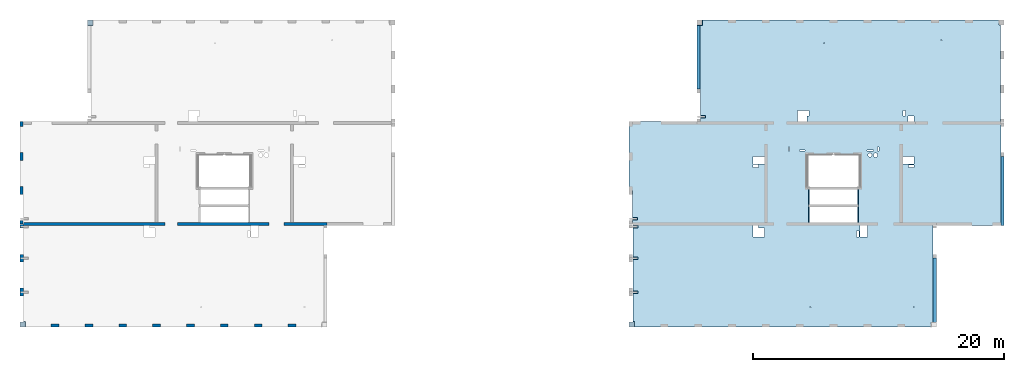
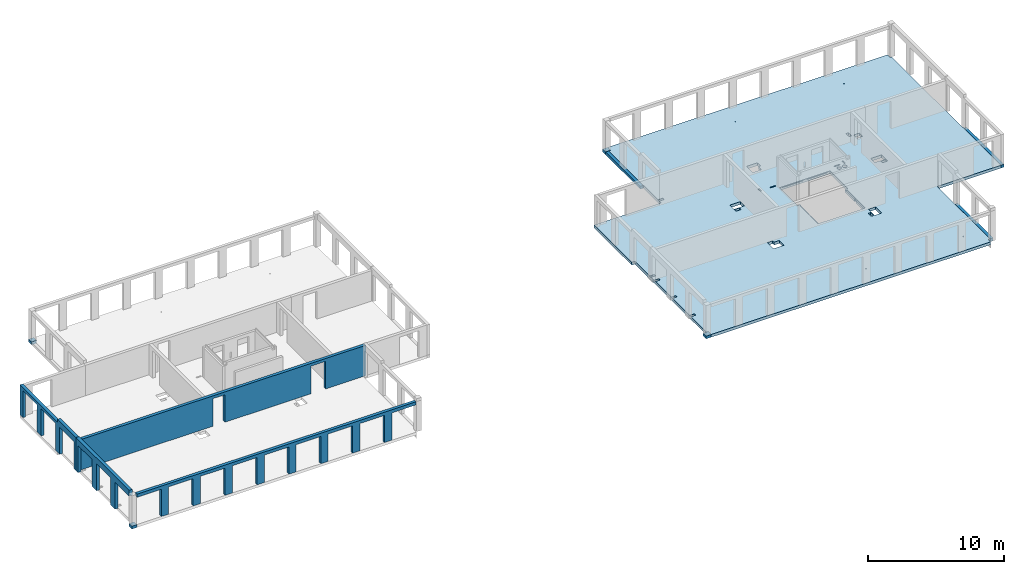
# One storey, part 2 of 11: 8 slabs, 4 walls, 53 openings.
"""IFC2X3 building model written with IfcOpenShell, lengths in millimetres."""

from ifc_helpers import new_model, entity, si_unit, converted_unit, derived_unit, direction, frame, frame_2d, origin, origin_2d_with_axis, place, context, subcontext, project, spatial, polyline, rectangle, circle, outline, extrude, material, layer, layer_set, layer_usage, type_object, element, save


model = new_model("IFC2X3")

# Units and contexts
model_context = context("Model", 3, precision=0.01, world=origin(), true_north=direction((6.12303176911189e-17, 1.0)))
body_context = subcontext(model_context, "Body", "Model", "MODEL_VIEW")
ifc_project = project(units=[si_unit("LENGTHUNIT", "METRE", prefix="MILLI"), si_unit("AREAUNIT", "SQUARE_METRE"), si_unit("VOLUMEUNIT", "CUBIC_METRE"), converted_unit("PLANEANGLEUNIT", "DEGREE", entity("IfcRatioMeasure", 0.0174532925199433), si_unit("PLANEANGLEUNIT", "RADIAN"), dimensions=[0, 0, 0, 0, 0, 0, 0]), si_unit("MASSUNIT", "GRAM", prefix="KILO"), derived_unit("MASSDENSITYUNIT", [(si_unit("MASSUNIT", "GRAM", prefix="KILO"), 1), (si_unit("LENGTHUNIT", "METRE"), -3)]), si_unit("TIMEUNIT", "SECOND"), si_unit("FREQUENCYUNIT", "HERTZ"), si_unit("THERMODYNAMICTEMPERATUREUNIT", "DEGREE_CELSIUS"), derived_unit("THERMALTRANSMITTANCEUNIT", [(si_unit("MASSUNIT", "GRAM", prefix="KILO"), 1), (si_unit("THERMODYNAMICTEMPERATUREUNIT", "KELVIN"), -1), (si_unit("TIMEUNIT", "SECOND"), -3)]), derived_unit("VOLUMETRICFLOWRATEUNIT", [(si_unit("LENGTHUNIT", "METRE"), 3), (si_unit("TIMEUNIT", "SECOND"), -1)]), si_unit("ELECTRICCURRENTUNIT", "AMPERE"), si_unit("ELECTRICVOLTAGEUNIT", "VOLT"), si_unit("POWERUNIT", "WATT"), si_unit("FORCEUNIT", "NEWTON", prefix="KILO"), si_unit("ILLUMINANCEUNIT", "LUX"), si_unit("LUMINOUSFLUXUNIT", "LUMEN"), si_unit("LUMINOUSINTENSITYUNIT", "CANDELA"), derived_unit("USERDEFINED", [(si_unit("MASSUNIT", "GRAM", prefix="KILO"), -1), (si_unit("LENGTHUNIT", "METRE"), -2), (si_unit("TIMEUNIT", "SECOND"), 3), (si_unit("LUMINOUSFLUXUNIT", "LUMEN"), 1)]), derived_unit("LINEARVELOCITYUNIT", [(si_unit("LENGTHUNIT", "METRE"), 1), (si_unit("TIMEUNIT", "SECOND"), -1)]), si_unit("PRESSUREUNIT", "PASCAL"), derived_unit("USERDEFINED", [(si_unit("LENGTHUNIT", "METRE"), -2), (si_unit("MASSUNIT", "GRAM", prefix="KILO"), 1), (si_unit("TIMEUNIT", "SECOND"), -2)])], contexts=[model_context])

# Site, building, storey
site_placement = place(None, origin())
site = spatial("IfcSite", under=ifc_project, at=site_placement, Name="Default", CompositionType="ELEMENT")
building_placement = place(site_placement, origin())
building = spatial("IfcBuilding", under=site, at=building_placement, Name="niet gebruiken", CompositionType="ELEMENT")
storey_placement = place(building_placement, frame((0.0, 0.0, 54180.0)))
storey = spatial("IfcBuildingStorey", under=building, at=storey_placement, Name="18 achttiende verdieping", CompositionType="ELEMENT", Elevation=54180.0)

# Slab, openings
ifc_material_1 = material(Name="NLRS_f2_beton ihwg")
ifc_layer_1 = layer(ifc_material_1, 250.0)
ifc_layer_set_1 = layer_set([ifc_layer_1], Name="Floor:NLRS_23.21_FL_beton ihwg d=250_gen")
ifc_layer_usage_1 = layer_usage(ifc_layer_set_1, "AXIS3", "POSITIVE", 0.0)
slab_1_placement = place(storey_placement, frame((75500.0, 28756.0, -340.0)))
slab_1 = element("IfcSlab", 1, at=slab_1_placement, inside=storey, material=ifc_layer_usage_1, Name="Floor:NLRS_23.21_FL_beton ihwg d=250_gen", ObjectType="Floor:NLRS_23.21_FL_beton ihwg d=250_gen", PredefinedType="FLOOR", context=body_context, shape_type="SweptSolid", body=[
    extrude(outline(polyline([(8995.0, 12250.0), (-14665.0, 12250.0), (-14665.0, 11840.0), (-14805.0, 11840.0), (-14805.0, 4060.0), (-14825.0, 4060.0), (-14825.0, -4150.0), (-9425.0, -4150.0), (-9425.0, -11890.0), (-9265.0, -11890.0), (-9265.0, -12250.0), (14395.0, -12250.0), (14395.0, -11820.0), (14535.0, -11820.0), (14535.0, -4040.0), (14555.0, -4040.0), (14555.0, -1350.0), (14825.0, -1350.0), (14825.0, 4150.0), (9155.0, 4150.0), (9155.0, 6750.0), (9425.0, 6750.0), (9425.0, 11820.0), (8995.0, 11820.0), (8995.0, 12250.0)])), frame((14825.0, 12250.0, 250.0), z_axis=(0.0, 0.0, -1.0), x_axis=(-1.0, 0.0, 0.0)), (0.0, 0.0, 1.0), 250.000000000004),
])
opening_1_placement = place(storey_placement, frame((75500.0, 28756.0, -340.0)))
element("IfcOpeningElement", 2, at=opening_1_placement, cuts=slab_1, ObjectType="Opening", context=body_context, shape_type="SweptSolid", body=[
    extrude(circle(Radius=37.5, at=frame_2d((-7875.0, -10650.0), x_axis=(1.0, 0.0))), frame((14825.0, 12250.0, 250.0), z_axis=(0.0, 0.0, -1.0), x_axis=(-1.0, 0.0, 0.0)), (0.0, 0.0, 1.0), 250.000000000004),
])
opening_2_placement = place(storey_placement, frame((75500.0, 28756.0, -340.0)))
element("IfcOpeningElement", 3, at=opening_2_placement, cuts=slab_1, ObjectType="Opening", context=body_context, shape_type="SweptSolid", body=[
    extrude(circle(Radius=37.5, at=frame_2d((-10075.0, 10650.0), x_axis=(1.0, 0.0))), frame((14825.0, 12250.0, 250.0), z_axis=(0.0, 0.0, -1.0), x_axis=(-1.0, 0.0, 0.0)), (0.0, 0.0, 1.0), 250.000000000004),
])
opening_3_placement = place(storey_placement, frame((75500.0, 28756.0, -340.0)))
element("IfcOpeningElement", 4, at=opening_3_placement, cuts=slab_1, ObjectType="Opening", context=body_context, shape_type="SweptSolid", body=[
    extrude(circle(Radius=37.5, at=frame_2d((-725.0, 10400.0), x_axis=(1.0, 0.0))), frame((14825.0, 12250.0, 250.0), z_axis=(0.0, 0.0, -1.0), x_axis=(-1.0, 0.0, 0.0)), (0.0, 0.0, 1.0), 250.000000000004),
])
opening_4_placement = place(storey_placement, frame((75500.0, 28756.0, -340.0)))
element("IfcOpeningElement", 5, at=opening_4_placement, cuts=slab_1, ObjectType="Opening", context=body_context, shape_type="SweptSolid", body=[
    extrude(circle(Radius=37.5, at=frame_2d((375.0, -10650.0), x_axis=(1.0, 0.0))), frame((14825.0, 12250.0, 250.0), z_axis=(0.0, 0.0, -1.0), x_axis=(-1.0, 0.0, 0.0)), (0.0, 0.0, 1.0), 250.000000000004),
])
opening_5_placement = place(slab_1_placement, origin())
element("IfcOpeningElement", 6, at=opening_5_placement, cuts=slab_1, ObjectType="Opening", context=body_context, shape_type="SweptSolid", body=[
    extrude(rectangle(XDim=109.999999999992, YDim=1220.0, at=origin_2d_with_axis()), frame((14344.9999671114, 10380.0, 210.0)), (0.0, 0.0, 1.0), 39.9999999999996),
])
opening_6_placement = place(slab_1_placement, origin())
element("IfcOpeningElement", 7, at=opening_6_placement, cuts=slab_1, ObjectType="Opening", context=body_context, shape_type="SweptSolid", body=[
    extrude(rectangle(XDim=109.999999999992, YDim=1220.0, at=origin_2d_with_axis()), frame((18254.9997832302, 10380.0, 210.0)), (0.0, 0.0, 1.0), 39.9999999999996),
])
opening_7_placement = place(slab_1_placement, origin())
element("IfcOpeningElement", 8, at=opening_7_placement, cuts=slab_1, ObjectType="Opening", context=body_context, shape_type="SweptSolid", body=[
    extrude(rectangle(XDim=109.999999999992, YDim=1220.0, at=origin_2d_with_axis()), frame((18255.0, 8960.0, 210.0)), (0.0, 0.0, 1.0), 39.9999999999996),
])
opening_8_placement = place(slab_1_placement, origin())
element("IfcOpeningElement", 9, at=opening_8_placement, cuts=slab_1, ObjectType="Opening", context=body_context, shape_type="SweptSolid", body=[
    extrude(rectangle(XDim=109.999999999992, YDim=1220.0, at=origin_2d_with_axis()), frame((14344.9997832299, 8960.0, 210.0)), (0.0, 0.0, 1.0), 39.9999999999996),
])
opening_9_placement = place(slab_1_placement, origin())
element("IfcOpeningElement", 10, at=opening_9_placement, cuts=slab_1, ObjectType="Opening", context=body_context, shape_type="SweptSolid", body=[
    extrude(rectangle(XDim=399.999999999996, YDim=199.999999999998, at=origin_2d_with_axis()), frame((5870.0, 16765.0, 220.0)), (0.0, 0.0, 1.0), 30.0000000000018),
])
opening_10_placement = place(slab_1_placement, origin())
element("IfcOpeningElement", 11, at=opening_10_placement, cuts=slab_1, ObjectType="Opening", context=body_context, shape_type="SweptSolid", body=[
    extrude(rectangle(XDim=400.000000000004, YDim=200.000000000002, at=origin_2d_with_axis()), frame((470.0, 8630.0, 220.0)), (0.0, 0.0, 1.0), 30.0000000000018),
])
opening_11_placement = place(slab_1_placement, origin())
element("IfcOpeningElement", 12, at=opening_11_placement, cuts=slab_1, ObjectType="Opening", context=body_context, shape_type="SweptSolid", body=[
    extrude(rectangle(XDim=200.000000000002, YDim=400.000000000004, at=origin_2d_with_axis()), frame((490.0, 8000.0, 220.0), z_axis=(0.0, 0.0, 1.0), x_axis=(0.0, -1.0, 0.0)), (0.0, 0.0, 1.0), 30.0000000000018),
])
opening_12_placement = place(slab_1_placement, origin())
element("IfcOpeningElement", 13, at=opening_12_placement, cuts=slab_1, ObjectType="Opening", context=body_context, shape_type="SweptSolid", body=[
    extrude(rectangle(XDim=200.000000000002, YDim=400.000000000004, at=origin_2d_with_axis()), frame((490.0, 5500.0, 220.0), z_axis=(0.0, 0.0, 1.0), x_axis=(0.0, -1.0, 0.0)), (0.0, 0.0, 1.0), 30.0000000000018),
])
opening_13_placement = place(slab_1_placement, origin())
element("IfcOpeningElement", 14, at=opening_13_placement, cuts=slab_1, ObjectType="Opening", context=body_context, shape_type="SweptSolid", body=[
    extrude(rectangle(XDim=200.000000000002, YDim=400.000000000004, at=origin_2d_with_axis()), frame((490.0, 2800.0, 220.0), z_axis=(0.0, 0.0, 1.0), x_axis=(0.0, -1.0, 0.0)), (0.0, 0.0, 1.0), 30.0000000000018),
])
opening_14_placement = place(slab_1_placement, origin())
element("IfcOpeningElement", 15, at=opening_14_placement, cuts=slab_1, ObjectType="Opening", context=body_context, shape_type="SweptSolid", body=[
    extrude(rectangle(XDim=900.000000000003, YDim=700.000000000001, at=origin_2d_with_axis()), frame((10325.0, 7550.0, 0.0), z_axis=(0.0, 0.0, 1.0), x_axis=(-1.0, 0.0, 0.0)), (0.0, 0.0, 1.0), 250.000000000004),
])
opening_15_placement = place(slab_1_placement, origin())
element("IfcOpeningElement", 16, at=opening_15_placement, cuts=slab_1, ObjectType="Opening", context=body_context, shape_type="SweptSolid", body=[
    extrude(rectangle(XDim=200.000000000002, YDim=450.000000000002, at=origin_2d_with_axis()), frame((10100.0, 8000.0, 0.0), z_axis=(0.0, 0.0, 1.0), x_axis=(0.0, -1.0, 0.0)), (0.0, 0.0, 1.0), 250.000000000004),
])
opening_16_placement = place(slab_1_placement, origin())
element("IfcOpeningElement", 17, at=opening_16_placement, cuts=slab_1, ObjectType="Opening", context=body_context, shape_type="SweptSolid", body=[
    extrude(rectangle(XDim=900.000000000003, YDim=730.000000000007, at=origin_2d_with_axis()), frame((13800.0, 16850.0, 0.0), z_axis=(0.0, 0.0, 1.0), x_axis=(0.0, 1.0, 0.0)), (0.0, 0.0, 1.0), 250.000000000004),
])
opening_17_placement = place(slab_1_placement, origin())
element("IfcOpeningElement", 18, at=opening_17_placement, cuts=slab_1, ObjectType="Opening", context=body_context, shape_type="SweptSolid", body=[
    extrude(rectangle(XDim=169.999999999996, YDim=450.000000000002, at=origin_2d_with_axis()), frame((14250.0, 17075.0, 0.0), z_axis=(0.0, 0.0, 1.0), x_axis=(-1.0, 0.0, 0.0)), (0.0, 0.0, 1.0), 250.000000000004),
])
opening_18_placement = place(slab_1_placement, origin())
element("IfcOpeningElement", 19, at=opening_18_placement, cuts=slab_1, ObjectType="Opening", context=body_context, shape_type="SweptSolid", body=[
    extrude(rectangle(XDim=900.000000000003, YDim=600.000000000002, at=origin_2d_with_axis()), frame((10325.0, 13330.0, 0.0), z_axis=(0.0, 0.0, 1.0), x_axis=(-1.0, 0.0, 0.0)), (0.0, 0.0, 1.0), 250.000000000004),
])
opening_19_placement = place(slab_1_placement, origin())
element("IfcOpeningElement", 20, at=opening_19_placement, cuts=slab_1, ObjectType="Opening", context=body_context, shape_type="SweptSolid", body=[
    extrude(rectangle(XDim=450.000000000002, YDim=500.000000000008, at=origin_2d_with_axis()), frame((22475.0, 16625.0, 0.0), z_axis=(0.0, 0.0, 1.0), x_axis=(0.0, 1.0, 0.0)), (0.0, 0.0, 1.0), 250.000000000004),
])
opening_20_placement = place(slab_1_placement, origin())
element("IfcOpeningElement", 21, at=opening_20_placement, cuts=slab_1, ObjectType="Opening", context=body_context, shape_type="SweptSolid", body=[
    extrude(rectangle(XDim=899.999999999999, YDim=600.000000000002, at=origin_2d_with_axis()), frame((18729.9818996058, 7650.0, 0.0), z_axis=(0.0, 0.0, 1.0), x_axis=(0.0, 1.0, 0.0)), (0.0, 0.0, 1.0), 250.000000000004),
])
opening_21_placement = place(slab_1_placement, origin())
element("IfcOpeningElement", 22, at=opening_21_placement, cuts=slab_1, ObjectType="Opening", context=body_context, shape_type="SweptSolid", body=[
    extrude(rectangle(XDim=900.000000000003, YDim=600.000000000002, at=origin_2d_with_axis()), frame((22275.0, 13330.0, 0.0), z_axis=(0.0, 0.0, 1.0), x_axis=(-1.0, 0.0, 0.0)), (0.0, 0.0, 1.0), 250.000000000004),
])
opening_22_placement = place(slab_1_placement, origin())
element("IfcOpeningElement", 23, at=opening_22_placement, cuts=slab_1, ObjectType="Opening", context=body_context, shape_type="SweptSolid", body=[
    extrude(rectangle(XDim=1760.00000000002, YDim=23.0000000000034, at=origin_2d_with_axis()), frame((15244.9998491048, 13751.4999999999, 180.0)), (0.0, 0.0, 1.0), 40.0000000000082),
])
opening_23_placement = place(slab_1_placement, origin())
element("IfcOpeningElement", 24, at=opening_23_placement, cuts=slab_1, ObjectType="Opening", context=body_context, shape_type="SweptSolid", body=[
    extrude(rectangle(XDim=1760.0, YDim=23.0000000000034, at=origin_2d_with_axis()), frame((17354.999849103, 13751.4999999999, 180.0)), (0.0, 0.0, 1.0), 40.0000000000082),
])
opening_24_placement = place(slab_1_placement, origin())
element("IfcOpeningElement", 25, at=opening_24_placement, cuts=slab_1, ObjectType="Opening", context=body_context, shape_type="SweptSolid", body=[
    extrude(rectangle(XDim=100.000000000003, YDim=489.999999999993, at=origin_2d_with_axis()), frame((19225.0, 14090.0, 0.0), z_axis=(0.0, 0.0, 1.0), x_axis=(0.0, -1.0, 0.0)), (0.0, 0.0, 1.0), 250.000000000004),
])
opening_25_placement = place(slab_1_placement, origin())
element("IfcOpeningElement", 26, at=opening_25_placement, cuts=slab_1, ObjectType="Opening", context=body_context, shape_type="SweptSolid", body=[
    extrude(rectangle(XDim=99.9999999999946, YDim=340.000000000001, at=origin_2d_with_axis()), frame((19865.0, 14210.0, 0.0), z_axis=(0.0, 0.0, 1.0), x_axis=(-1.0, 0.0, 0.0)), (0.0, 0.0, 1.0), 250.000000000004),
])
opening_26_placement = place(slab_1_placement, origin())
element("IfcOpeningElement", 27, at=opening_26_placement, cuts=slab_1, ObjectType="Opening", context=body_context, shape_type="SweptSolid", body=[
    extrude(rectangle(XDim=99.9999999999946, YDim=340.000000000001, at=origin_2d_with_axis()), frame((12755.0, 14210.0, 0.0), z_axis=(0.0, 0.0, 1.0), x_axis=(-1.0, 0.0, 0.0)), (0.0, 0.0, 1.0), 250.000000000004),
])
opening_27_placement = place(slab_1_placement, origin())
element("IfcOpeningElement", 28, at=opening_27_placement, cuts=slab_1, ObjectType="Opening", context=body_context, shape_type="SweptSolid", body=[
    extrude(rectangle(XDim=100.000000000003, YDim=440.000000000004, at=origin_2d_with_axis()), frame((13805.0, 14090.0, 0.0), z_axis=(0.0, 0.0, 1.0), x_axis=(0.0, -1.0, 0.0)), (0.0, 0.0, 1.0), 250.000000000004),
])
opening_28_placement = place(slab_1_placement, origin())
element("IfcOpeningElement", 29, at=opening_28_placement, cuts=slab_1, ObjectType="Opening", context=body_context, shape_type="SweptSolid", body=[
    extrude(rectangle(XDim=230.0, YDim=450.000000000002, at=origin_2d_with_axis()), frame((10100.0000865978, 12845.0002270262, 0.0), z_axis=(0.0, 0.0, 1.0), x_axis=(0.0, -1.0, 0.0)), (0.0, 0.0, 1.0), 250.000000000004),
])
opening_29_placement = place(slab_1_placement, origin())
element("IfcOpeningElement", 30, at=opening_29_placement, cuts=slab_1, ObjectType="Opening", context=body_context, shape_type="SweptSolid", body=[
    extrude(rectangle(XDim=220.000000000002, YDim=450.000000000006, at=origin_2d_with_axis()), frame((18240.0, 7425.0, 0.0)), (0.0, 0.0, 1.0), 250.000000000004),
])
opening_30_placement = place(slab_1_placement, origin())
element("IfcOpeningElement", 31, at=opening_30_placement, cuts=slab_1, ObjectType="Opening", context=body_context, shape_type="SweptSolid", body=[
    extrude(rectangle(XDim=220.000000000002, YDim=450.000000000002, at=origin_2d_with_axis()), frame((22500.0, 12840.0, 0.0), z_axis=(0.0, 0.0, 1.0), x_axis=(0.0, -1.0, 0.0)), (0.0, 0.0, 1.0), 250.000000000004),
])
opening_31_placement = place(slab_1_placement, origin())
element("IfcOpeningElement", 32, at=opening_31_placement, cuts=slab_1, ObjectType="Opening", context=body_context, shape_type="SweptSolid", body=[
    extrude(rectangle(XDim=220.000000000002, YDim=450.000000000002, at=origin_2d_with_axis()), frame((21935.0, 17075.0, 0.0), z_axis=(0.0, 0.0, 1.0), x_axis=(-1.0, 0.0, 0.0)), (0.0, 0.0, 1.0), 250.000000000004),
])
opening_32_placement = place(slab_1_placement, origin())
element("IfcOpeningElement", 33, at=opening_32_placement, cuts=slab_1, ObjectType="Opening", context=body_context, shape_type="SweptSolid", body=[
    extrude(circle(Radius=157.5, at=origin_2d_with_axis()), frame((19200.0, 13720.0, 0.0)), (0.0, 0.0, 1.0), 250.000000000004),
])
opening_33_placement = place(slab_1_placement, origin())
element("IfcOpeningElement", 34, at=opening_33_placement, cuts=slab_1, ObjectType="Opening", context=body_context, shape_type="SweptSolid", body=[
    extrude(circle(Radius=177.5, at=origin_2d_with_axis()), frame((19650.0, 13720.0, 0.0)), (0.0, 0.0, 1.0), 250.000000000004),
])
opening_34_placement = place(slab_1_placement, frame((16299.9999458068, 10378.7499999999, 250.0)))
element("IfcOpeningElement", 35, at=opening_34_placement, cuts=slab_1, Name="Floor:NLRS_23.21_FL_beton ihwg d=250_gen:2", ObjectType="Opening", context=body_context, shape_type="SweptSolid", body=[
    extrude(outline(polyline([(-1899.99983742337, -2028.75), (1899.99994580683, -2028.75), (1899.99994580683, -808.750000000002), (1999.99994580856, -808.750000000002), (1999.99994580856, -608.75), (1899.99994580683, -608.75), (1899.99994580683, 751.250000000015), (2134.99994580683, 751.250000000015), (2134.99994580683, 3361.25), (-2135.00005419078, 3361.25), (-2135.00005419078, 751.250000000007), (-1899.99983742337, 751.250000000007), (-1899.99983742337, -608.750000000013), (-2000.00005419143, -608.750000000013), (-2000.00005419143, -808.750000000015), (-1899.99983742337, -808.750000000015), (-1899.99983742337, -2028.75)])), frame((0.0, 0.0, 0.0), z_axis=(0.0, 0.0, -1.0), x_axis=(-1.0, 0.0, 0.0)), (0.0, 0.0, 1.0), 250.000000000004),
])

# Slabs
ifc_layer_usage_2 = layer_usage(ifc_layer_set_1, "AXIS3", "POSITIVE", 0.0)
slab_2_placement = place(storey_placement, origin())
element("IfcSlab", 36, at=slab_2_placement, inside=storey, material=ifc_layer_usage_2, Name="Floor:NLRS_23.21_FL_beton ihwg d=250_gen", ObjectType="Floor:NLRS_23.21_FL_beton ihwg d=250_gen", PredefinedType="FLOOR", context=body_context, shape_type="SweptSolid", body=[
    extrude(rectangle(XDim=5069.99999999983, YDim=249.999999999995, at=frame_2d((4.32009983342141e-12, -8.66151594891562e-12), x_axis=(1.0, 0.0))), frame((81025.0, 50291.0, -90.0), z_axis=(0.0, 0.0, -1.0), x_axis=(0.0, 1.0, 0.0)), (0.0, 0.0, 1.0), 250.000000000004),
])
ifc_layer_usage_3 = layer_usage(ifc_layer_set_1, "AXIS3", "POSITIVE", 0.0)
slab_3_placement = place(storey_placement, origin())
element("IfcSlab", 37, at=slab_3_placement, inside=storey, material=ifc_layer_usage_3, Name="Floor:NLRS_23.21_FL_beton ihwg d=250_gen", ObjectType="Floor:NLRS_23.21_FL_beton ihwg d=250_gen", PredefinedType="FLOOR", context=body_context, shape_type="SweptSolid", body=[
    extrude(rectangle(XDim=5140.00000000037, YDim=250.000065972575, at=frame_2d((-2.27373675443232e-12, 0.0), x_axis=(1.0, 0.0))), frame((99875.0, 31686.0, -90.0), z_axis=(0.0, 0.0, -1.0), x_axis=(0.0, 1.0, 0.0)), (0.0, 0.0, 1.0), 250.000000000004),
])
ifc_layer_usage_4 = layer_usage(ifc_layer_set_1, "AXIS3", "POSITIVE", 0.0)
slab_4_placement = place(storey_placement, origin())
element("IfcSlab", 38, at=slab_4_placement, inside=storey, material=ifc_layer_usage_4, Name="Floor:NLRS_23.21_FL_beton ihwg d=250_gen", ObjectType="Floor:NLRS_23.21_FL_beton ihwg d=250_gen", PredefinedType="FLOOR", context=body_context, shape_type="SweptSolid", body=[
    extrude(rectangle(XDim=5500.00000000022, YDim=249.999999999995, at=frame_2d((2.04636307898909e-12, -8.66151594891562e-12), x_axis=(1.0, 0.0))), frame((105275.0, 39606.0, -90.0), z_axis=(0.0, 0.0, -1.0), x_axis=(0.0, 1.0, 0.0)), (0.0, 0.0, 1.0), 250.000000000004),
])
ifc_layer_usage_5 = layer_usage(ifc_layer_set_1, "AXIS3", "POSITIVE", 0.0)
slab_5_placement = place(storey_placement, origin())
element("IfcSlab", 39, at=slab_5_placement, inside=storey, material=ifc_layer_usage_5, Name="Floor:NLRS_23.21_FL_beton ihwg d=250_gen", ObjectType="Floor:NLRS_23.21_FL_beton ihwg d=250_gen", PredefinedType="FLOOR", context=body_context, shape_type="SweptSolid", body=[
    extrude(outline(polyline([(-280.0, -240.0), (130.0, -240.0), (130.0, 50.0), (150.0, 50.0), (150.0, 190.0), (-280.0, 190.0), (-280.0, -240.0)])), frame((27140.0, 29036.0, -90.0), z_axis=(0.0, 0.0, -1.0), x_axis=(0.0, 1.0, 0.0)), (0.0, 0.0, 1.0), 250.000000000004),
])
ifc_layer_usage_6 = layer_usage(ifc_layer_set_1, "AXIS3", "POSITIVE", 0.0)
slab_6_placement = place(storey_placement, origin())
element("IfcSlab", 40, at=slab_6_placement, inside=storey, material=ifc_layer_usage_6, Name="Floor:NLRS_23.21_FL_beton ihwg d=250_gen", ObjectType="Floor:NLRS_23.21_FL_beton ihwg d=250_gen", PredefinedType="FLOOR", context=body_context, shape_type="SweptSolid", body=[
    extrude(outline(polyline([(-280.0, -240.0), (130.0, -240.0), (130.0, 50.0), (150.0, 50.0), (150.0, 190.0), (-280.0, 190.0), (-280.0, -240.0)])), frame((75740.0, 29036.0, -90.0), z_axis=(0.0, 0.0, -1.0), x_axis=(0.0, 1.0, 0.0)), (0.0, 0.0, 1.0), 250.000000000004),
])
ifc_layer_usage_7 = layer_usage(ifc_layer_set_1, "AXIS3", "POSITIVE", 0.0)
slab_7_placement = place(storey_placement, origin())
element("IfcSlab", 41, at=slab_7_placement, inside=storey, material=ifc_layer_usage_7, Name="Floor:NLRS_23.21_FL_beton ihwg d=250_gen", ObjectType="Floor:NLRS_23.21_FL_beton ihwg d=250_gen", PredefinedType="FLOOR", context=body_context, shape_type="SweptSolid", body=[
    extrude(rectangle(XDim=430.00000000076, YDim=429.999999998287, at=frame_2d((4.33431068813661e-12, 2.17426077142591e-12), x_axis=(1.0, 0.0))), frame((32515.0, 53041.0, -90.0), z_axis=(0.0, 0.0, -1.0), x_axis=(0.0, 1.0, 0.0)), (0.0, 0.0, 1.0), 250.000000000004),
])
ifc_layer_usage_8 = layer_usage(ifc_layer_set_1, "AXIS3", "POSITIVE", 0.0)
slab_8_placement = place(storey_placement, origin())
element("IfcSlab", 42, at=slab_8_placement, inside=storey, material=ifc_layer_usage_8, Name="Floor:NLRS_23.21_FL_beton ihwg d=250_gen", ObjectType="Floor:NLRS_23.21_FL_beton ihwg d=250_gen", PredefinedType="FLOOR", context=body_context, shape_type="SweptSolid", body=[
    extrude(rectangle(XDim=430.00000000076, YDim=429.999999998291, at=frame_2d((4.33431068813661e-12, -8.66862137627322e-12), x_axis=(1.0, 0.0))), frame((81115.0, 53041.0, -90.0), z_axis=(0.0, 0.0, -1.0), x_axis=(0.0, 1.0, 0.0)), (0.0, 0.0, 1.0), 250.000000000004),
])

# Wall, openings
ifc_layer_2 = layer(ifc_material_1, 250.0)
ifc_layer_set_2 = layer_set([ifc_layer_2], Name="Basic Wall:NLRS_22.21_WA_beton ihwg d=250_gen")
ifc_layer_usage_9 = layer_usage(ifc_layer_set_2, "AXIS2", "NEGATIVE", 125.0)
wall_type_1 = type_object("IfcWallType", Name="Basic Wall:NLRS_22.21_WA_beton ihwg d=250_gen", PredefinedType="STANDARD", material=ifc_layer_set_2)
wall_1_placement = place(storey_placement, frame((27170.0, 36981.0, -90.0)))
wall_1 = element("IfcWallStandardCase", 43, at=wall_1_placement, inside=storey, type_object=wall_type_1, material=ifc_layer_usage_9, Name="Basic Wall:NLRS_22.21_WA_beton ihwg d=250_gen", ObjectType="Basic Wall:NLRS_22.21_WA_beton ihwg d=250_gen", context=body_context, shape_type="SweptSolid", body=[
    extrude(rectangle(XDim=24230.0000000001, YDim=250.000000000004, at=frame_2d((12115.0, 0.0), x_axis=(-1.0, 0.0))), origin(), (0.0, 0.0, 1.0), 2719.99999999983),
])
opening_35_placement = place(wall_1_placement, origin())
element("IfcOpeningElement", 44, at=opening_35_placement, cuts=wall_1, Name="Basic Wall:NLRS_22.21_WA_beton ihwg d=250_gen", ObjectType="Opening", context=body_context, shape_type="SweptSolid", body=[
    extrude(rectangle(XDim=2470.0, YDim=1225.0, at=frame_2d((0.0, -4.43378667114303e-12), x_axis=(0.0, 1.0))), frame((20192.500000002, -1399.0, 1235.0), z_axis=(0.0, 1.0, 0.0), x_axis=(-1.0, 0.0, 0.0)), (0.0, 0.0, 1.0), 3048.0),
])
opening_36_placement = place(wall_1_placement, origin())
element("IfcOpeningElement", 45, at=opening_36_placement, cuts=wall_1, Name="Basic Wall:NLRS_22.21_WA_beton ihwg d=250_gen", ObjectType="Opening", context=body_context, shape_type="SweptSolid", body=[
    extrude(rectangle(XDim=2470.0, YDim=1006.0, at=frame_2d((2.1600499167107e-12, -4.43378667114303e-12), x_axis=(0.0, 1.0))), frame((11782.0, -1399.0, 1235.0), z_axis=(0.0, 1.0, 0.0), x_axis=(-1.0, 0.0, 0.0)), (0.0, 0.0, 1.0), 3048.0),
])
opening_37_placement = place(wall_1_placement, origin())
element("IfcOpeningElement", 46, at=opening_37_placement, cuts=wall_1, Name="Basic Wall:NLRS_22.21_WA_beton ihwg d=250_gen", ObjectType="Recess", context=body_context, shape_type="SweptSolid", body=[
    extrude(rectangle(XDim=55000.0, YDim=20.0000000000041, at=frame_2d((0.0, -2.16626716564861e-12), x_axis=(1.0, 0.0))), frame((10.0, -140.0, -14080.0), z_axis=(0.0, 1.0, 0.0), x_axis=(0.0, 0.0, -1.0)), (0.0, 0.0, 1.0), 124.999999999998),
])

ifc_material_2 = material(Name="NLRS_f2_beton prefab")
ifc_layer_3 = layer(ifc_material_2, 250.0)
ifc_layer_set_3 = layer_set([ifc_layer_3], Name="Basic Wall:NLRS_21.21_WA_beton prefab d=250_gen")
ifc_layer_usage_10 = layer_usage(ifc_layer_set_3, "AXIS2", "NEGATIVE", 125.0)
wall_type_2 = type_object("IfcWallType", Name="Basic Wall:NLRS_21.21_WA_beton prefab d=250_gen", PredefinedType="STANDARD", material=ifc_layer_set_3)
wall_2_placement = place(storey_placement, frame((27025.0, 45156.0, -70.0), z_axis=(0.0, 0.0, 1.0), x_axis=(0.0, -1.0, 0.0)))
wall_2 = element("IfcWallStandardCase", 47, at=wall_2_placement, inside=storey, type_object=wall_type_2, material=ifc_layer_usage_10, Name="Basic Wall:NLRS_21.21_WA_beton prefab d=250_gen", ObjectType="Basic Wall:NLRS_21.21_WA_beton prefab d=250_gen", context=body_context, shape_type="SweptSolid", body=[
    extrude(rectangle(XDim=8189.99999999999, YDim=250.000000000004, at=frame_2d((4095.0, 0.0), x_axis=(-1.0, 0.0))), origin(), (0.0, 0.0, 1.0), 2949.99999999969),
])
opening_38_placement = place(wall_2_placement, origin())
element("IfcOpeningElement", 48, at=opening_38_placement, cuts=wall_2, Name="Basic Wall:NLRS_21.21_WA_beton prefab d=250_gen", ObjectType="Opening", context=body_context, shape_type="SweptSolid", body=[
    extrude(rectangle(XDim=2420.0, YDim=2080.0, at=frame_2d((0.0, 0.0), x_axis=(0.0, 1.0))), frame((1450.0, -1399.0, 1210.0), z_axis=(0.0, 1.0, 0.0), x_axis=(-1.0, 0.0, 0.0)), (0.0, 0.0, 1.0), 3048.0),
])
opening_39_placement = place(wall_2_placement, origin())
element("IfcOpeningElement", 49, at=opening_39_placement, cuts=wall_2, Name="Basic Wall:NLRS_21.21_WA_beton prefab d=250_gen", ObjectType="Opening", context=body_context, shape_type="SweptSolid", body=[
    extrude(rectangle(XDim=2420.0, YDim=2080.0, at=frame_2d((0.0, 0.0), x_axis=(0.0, 1.0))), frame((4150.0, -1399.0, 1210.0), z_axis=(0.0, 1.0, 0.0), x_axis=(-1.0, 0.0, 0.0)), (0.0, 0.0, 1.0), 3048.0),
])
opening_40_placement = place(wall_2_placement, origin())
element("IfcOpeningElement", 50, at=opening_40_placement, cuts=wall_2, Name="Basic Wall:NLRS_21.21_WA_beton prefab d=250_gen", ObjectType="Opening", context=body_context, shape_type="SweptSolid", body=[
    extrude(rectangle(XDim=2420.0, YDim=2080.0, at=frame_2d((0.0, 0.0), x_axis=(0.0, 1.0))), frame((6850.0, -1399.0, 1210.0), z_axis=(0.0, 1.0, 0.0), x_axis=(-1.0, 0.0, 0.0)), (0.0, 0.0, 1.0), 3048.0),
])
opening_41_placement = place(wall_2_placement, origin())
element("IfcOpeningElement", 51, at=opening_41_placement, cuts=wall_2, Name="Basic Wall:NLRS_21.21_WA_beton prefab d=250_gen", ObjectType="Opening", context=body_context, shape_type="SweptSolid", body=[
    extrude(rectangle(XDim=249.999999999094, YDim=5499.99999999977, at=frame_2d((0.0, 0.0), x_axis=(0.0, 1.0))), frame((2750.0, 125.0, 2825.0), z_axis=(0.0, -1.0, 0.0), x_axis=(-1.0, 0.0, 0.0)), (0.0, 0.0, 1.0), 250.0),
])

ifc_layer_4 = layer(ifc_material_1, 250.0)
ifc_layer_set_4 = layer_set([ifc_layer_4], Name="Basic Wall:NLRS_21.21_WA_beton ihwg d=250_gen")
ifc_layer_usage_11 = layer_usage(ifc_layer_set_4, "AXIS2", "NEGATIVE", 125.0)
wall_type_3 = type_object("IfcWallType", Name="Basic Wall:NLRS_21.21_WA_beton ihwg d=250_gen", PredefinedType="STANDARD", material=ifc_layer_set_4)
wall_3_placement = place(storey_placement, frame((27330.0, 28881.0, -90.0)))
wall_3 = element("IfcWallStandardCase", 52, at=wall_3_placement, inside=storey, type_object=wall_type_3, material=ifc_layer_usage_11, Name="Basic Wall:NLRS_21.21_WA_beton ihwg d=250_gen", ObjectType="Basic Wall:NLRS_21.21_WA_beton ihwg d=250_gen", context=body_context, shape_type="SweptSolid", body=[
    extrude(rectangle(XDim=23640.0000000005, YDim=250.000000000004, at=frame_2d((11820.0000000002, -8.66862137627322e-13), x_axis=(-1.0, 0.0))), origin(), (0.0, 0.0, 1.0), 2720.00000000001),
])
opening_42_placement = place(wall_3_placement, origin())
element("IfcOpeningElement", 53, at=opening_42_placement, cuts=wall_3, Name="Basic Wall:NLRS_21.21_WA_beton ihwg d=250_gen", ObjectType="Opening", context=body_context, shape_type="SweptSolid", body=[
    extrude(rectangle(XDim=2440.0, YDim=2080.0, at=frame_2d((0.0, 0.0), x_axis=(0.0, 1.0))), frame((22620.0, -1399.0, 1220.0), z_axis=(0.0, 1.0, 0.0), x_axis=(-1.0, 0.0, 0.0)), (0.0, 0.0, 1.0), 3048.0),
])
opening_43_placement = place(wall_3_placement, origin())
element("IfcOpeningElement", 54, at=opening_43_placement, cuts=wall_3, Name="Basic Wall:NLRS_21.21_WA_beton ihwg d=250_gen", ObjectType="Opening", context=body_context, shape_type="SweptSolid", body=[
    extrude(rectangle(XDim=2440.0, YDim=2080.0, at=frame_2d((0.0, 0.0), x_axis=(0.0, 1.0))), frame((19920.0, -1399.0, 1220.0), z_axis=(0.0, 1.0, 0.0), x_axis=(-1.0, 0.0, 0.0)), (0.0, 0.0, 1.0), 3048.0),
])
opening_44_placement = place(wall_3_placement, origin())
element("IfcOpeningElement", 55, at=opening_44_placement, cuts=wall_3, Name="Basic Wall:NLRS_21.21_WA_beton ihwg d=250_gen", ObjectType="Opening", context=body_context, shape_type="SweptSolid", body=[
    extrude(rectangle(XDim=2440.0, YDim=2080.0, at=frame_2d((0.0, 0.0), x_axis=(0.0, 1.0))), frame((17220.0, -1399.0, 1220.0), z_axis=(0.0, 1.0, 0.0), x_axis=(-1.0, 0.0, 0.0)), (0.0, 0.0, 1.0), 3048.0),
])
opening_45_placement = place(wall_3_placement, origin())
element("IfcOpeningElement", 56, at=opening_45_placement, cuts=wall_3, Name="Basic Wall:NLRS_21.21_WA_beton ihwg d=250_gen", ObjectType="Opening", context=body_context, shape_type="SweptSolid", body=[
    extrude(rectangle(XDim=2440.0, YDim=2080.0, at=frame_2d((0.0, 0.0), x_axis=(0.0, 1.0))), frame((14520.0, -1399.0, 1220.0), z_axis=(0.0, 1.0, 0.0), x_axis=(-1.0, 0.0, 0.0)), (0.0, 0.0, 1.0), 3048.0),
])
opening_46_placement = place(wall_3_placement, origin())
element("IfcOpeningElement", 57, at=opening_46_placement, cuts=wall_3, Name="Basic Wall:NLRS_21.21_WA_beton ihwg d=250_gen", ObjectType="Opening", context=body_context, shape_type="SweptSolid", body=[
    extrude(rectangle(XDim=2440.0, YDim=2080.0, at=frame_2d((-4.32009983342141e-12, 0.0), x_axis=(0.0, 1.0))), frame((11820.0, -1399.0, 1220.0), z_axis=(0.0, 1.0, 0.0), x_axis=(-1.0, 0.0, 0.0)), (0.0, 0.0, 1.0), 3048.0),
])
opening_47_placement = place(wall_3_placement, origin())
element("IfcOpeningElement", 58, at=opening_47_placement, cuts=wall_3, Name="Basic Wall:NLRS_21.21_WA_beton ihwg d=250_gen", ObjectType="Opening", context=body_context, shape_type="SweptSolid", body=[
    extrude(rectangle(XDim=2440.0, YDim=2080.0, at=frame_2d((-2.1600499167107e-12, 0.0), x_axis=(0.0, 1.0))), frame((9120.0, -1399.0, 1220.0), z_axis=(0.0, 1.0, 0.0), x_axis=(-1.0, 0.0, 0.0)), (0.0, 0.0, 1.0), 3048.0),
])
opening_48_placement = place(wall_3_placement, origin())
element("IfcOpeningElement", 59, at=opening_48_placement, cuts=wall_3, Name="Basic Wall:NLRS_21.21_WA_beton ihwg d=250_gen", ObjectType="Opening", context=body_context, shape_type="SweptSolid", body=[
    extrude(rectangle(XDim=2440.0, YDim=2080.0, at=frame_2d((2.1600499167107e-12, 0.0), x_axis=(0.0, 1.0))), frame((6420.0, -1399.0, 1220.0), z_axis=(0.0, 1.0, 0.0), x_axis=(-1.0, 0.0, 0.0)), (0.0, 0.0, 1.0), 3048.0),
])
opening_49_placement = place(wall_3_placement, origin())
element("IfcOpeningElement", 60, at=opening_49_placement, cuts=wall_3, Name="Basic Wall:NLRS_21.21_WA_beton ihwg d=250_gen", ObjectType="Opening", context=body_context, shape_type="SweptSolid", body=[
    extrude(rectangle(XDim=2440.0, YDim=2080.0, at=frame_2d((2.1600499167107e-12, 0.0), x_axis=(0.0, 1.0))), frame((3720.0, -1399.0, 1220.0), z_axis=(0.0, 1.0, 0.0), x_axis=(-1.0, 0.0, 0.0)), (0.0, 0.0, 1.0), 3048.0),
])
opening_50_placement = place(wall_3_placement, origin())
element("IfcOpeningElement", 61, at=opening_50_placement, cuts=wall_3, Name="Basic Wall:NLRS_21.21_WA_beton ihwg d=250_gen", ObjectType="Opening", context=body_context, shape_type="SweptSolid", body=[
    extrude(rectangle(XDim=2440.0, YDim=2080.0, at=frame_2d((-2.1600499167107e-12, 0.0), x_axis=(0.0, 1.0))), frame((1020.0, -1399.0, 1220.0), z_axis=(0.0, 1.0, 0.0), x_axis=(-1.0, 0.0, 0.0)), (0.0, 0.0, 1.0), 3048.0),
])

ifc_layer_5 = layer(ifc_material_2, 270.0)
ifc_layer_set_5 = layer_set([ifc_layer_5], Name="Basic Wall:NLRS_21.21_WA_beton prefab d=270_gen")
ifc_layer_usage_12 = layer_usage(ifc_layer_set_5, "AXIS2", "NEGATIVE", 135.0)
wall_type_4 = type_object("IfcWallType", Name="Basic Wall:NLRS_21.21_WA_beton prefab d=270_gen", PredefinedType="STANDARD", material=ifc_layer_set_5)
wall_4_placement = place(storey_placement, frame((27035.0, 36946.0, -70.0), z_axis=(0.0, 0.0, 1.0), x_axis=(0.0, -1.0, 0.0)))
wall_4 = element("IfcWallStandardCase", 62, at=wall_4_placement, inside=storey, type_object=wall_type_4, material=ifc_layer_usage_12, Name="Basic Wall:NLRS_21.21_WA_beton prefab d=270_gen", ObjectType="Basic Wall:NLRS_21.21_WA_beton prefab d=270_gen", context=body_context, shape_type="SweptSolid", body=[
    extrude(rectangle(XDim=7780.00000000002, YDim=269.999999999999, at=frame_2d((3890.00000000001, 0.0), x_axis=(-1.0, 0.0))), origin(), (0.0, 0.0, 1.0), 2949.99999999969),
])
opening_51_placement = place(wall_4_placement, origin())
element("IfcOpeningElement", 63, at=opening_51_placement, cuts=wall_4, Name="Basic Wall:NLRS_21.21_WA_beton prefab d=270_gen", ObjectType="Opening", context=body_context, shape_type="SweptSolid", body=[
    extrude(rectangle(XDim=2420.0, YDim=2080.0, at=frame_2d((-2.1600499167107e-12, 0.0), x_axis=(0.0, 1.0))), frame((1340.0, -1389.0, 1210.0), z_axis=(0.0, 1.0, 0.0), x_axis=(-1.0, 0.0, 0.0)), (0.0, 0.0, 1.0), 3048.0),
])
opening_52_placement = place(wall_4_placement, origin())
element("IfcOpeningElement", 64, at=opening_52_placement, cuts=wall_4, Name="Basic Wall:NLRS_21.21_WA_beton prefab d=270_gen", ObjectType="Opening", context=body_context, shape_type="SweptSolid", body=[
    extrude(rectangle(XDim=2420.0, YDim=2080.0, at=frame_2d((2.1600499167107e-12, 0.0), x_axis=(0.0, 1.0))), frame((4040.0, -1389.0, 1210.0), z_axis=(0.0, 1.0, 0.0), x_axis=(-1.0, 0.0, 0.0)), (0.0, 0.0, 1.0), 3048.0),
])
opening_53_placement = place(wall_4_placement, origin())
element("IfcOpeningElement", 65, at=opening_53_placement, cuts=wall_4, Name="Basic Wall:NLRS_21.21_WA_beton prefab d=270_gen", ObjectType="Opening", context=body_context, shape_type="SweptSolid", body=[
    extrude(rectangle(XDim=2420.0, YDim=2080.0, at=frame_2d((2.1600499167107e-12, 0.0), x_axis=(0.0, 1.0))), frame((6740.0, -1389.0, 1210.0), z_axis=(0.0, 1.0, 0.0), x_axis=(-1.0, 0.0, 0.0)), (0.0, 0.0, 1.0), 3048.0),
])

save(model, "model.ifc")
